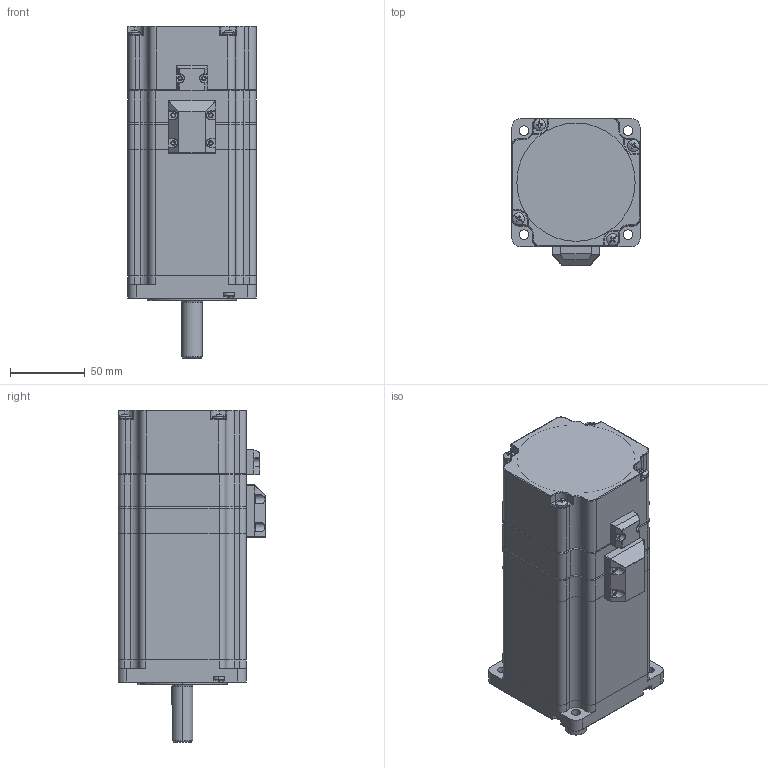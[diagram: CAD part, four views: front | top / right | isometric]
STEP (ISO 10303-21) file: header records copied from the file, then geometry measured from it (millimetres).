
FILE_DESCRIPTION (( 'STEP AP203' ), '1' );
FILE_NAME ('YK286EC118A1-SC.STEP', '2020-07-08T02:51:30', ( '' ), ( '' ), 'SwSTEP 2.0', 'SolidWorks 2016', '' );
FILE_SCHEMA (( 'CONFIG_CONTROL_DESIGN' ));
Length unit declared in the file: millimetre
Products named in the file (16): YK286萇儂晤鎢ん欶; cross recessed pan head screws gb_GB_CROSS_SCREWS_TYPE1 M4X40-40  H type-N; 86BK-綴欶; 86BK-2; 86BK-1.1; 86BK-3; 敕遠M4.0蹟佪; YK286ECXXA1粣郋; 86BK; YK286EC118A1-SC; YK286ECXXA1ヶ裔; 86BK-揤盄輸; YK286ECXXA1隅赽; 286萇儂萇擢揤啣; YK286ECXXA1綴裔; 86BK-蟀諉詩え
Assembly tree (21 placements, depth 3):
  YK286EC118A1-SC
    YK286ECXXA1ヶ裔
    YK286ECXXA1綴裔
    YK286ECXXA1隅赽
    敕遠M4.0蹟佪  x4
    286萇儂萇擢揤啣
    YK286萇儂晤鎢ん欶
    YK286ECXXA1粣郋
    86BK
      86BK-2
      86BK-3
      86BK-蟀諉詩え
      86BK-1.1
      86BK-綴欶
      86BK-揤盄輸
    cross recessed pan head screws gb_GB_CROSS_SCREWS_TYPE1 M4X40-40  H type-N  x4
Bounding box: 86 x 99 x 222.5 mm (x, y, z)
Volume: 751209.7 mm3; surface area: 201768.8 mm2
Topology: 20 solids, 20 shells, 1296 faces, 3195 edges, 1942 vertices
Faces by surface type: cylinder 546, plane 449, torus 118, cone 109, bspline 49, sphere 25
Entity records: 37028 total; most frequent: CARTESIAN_POINT 7999, DIRECTION 5989, ORIENTED_EDGE 5574, EDGE_CURVE 2787, AXIS2_PLACEMENT_3D 2339, VERTEX_POINT 1711, VECTOR 1311, LINE 1311
